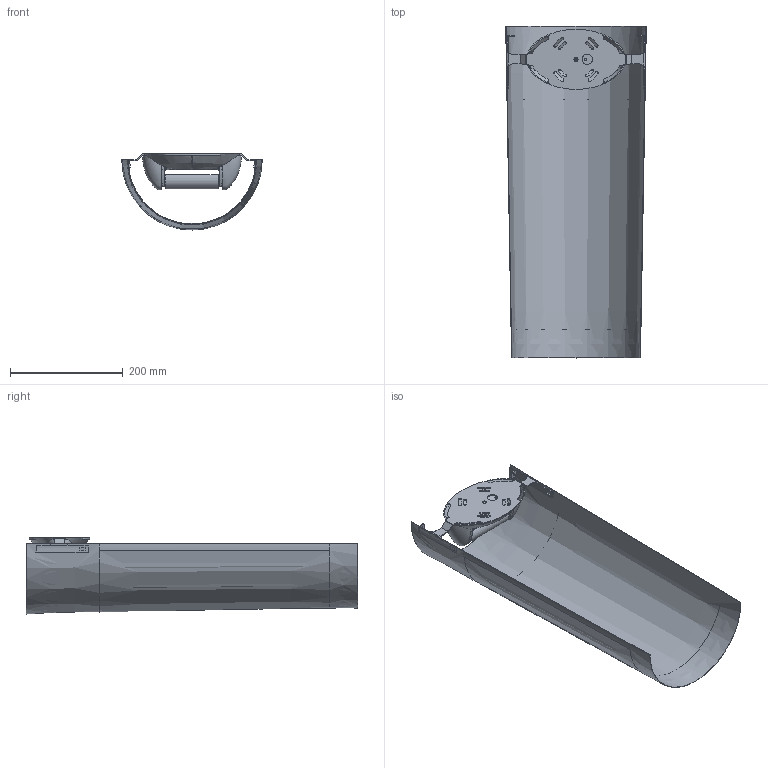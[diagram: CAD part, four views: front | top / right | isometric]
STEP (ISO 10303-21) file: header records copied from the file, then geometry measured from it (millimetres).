
FILE_DESCRIPTION (( 'STEP AP214' ), '1' );
FILE_NAME ('182_GRANDE_W_PL_3D.STEP', '2021-05-05T15:06:17', ( '' ), ( '' ), 'SwSTEP 2.0', 'SolidWorks 2021', '' );
FILE_SCHEMA (( 'AUTOMOTIVE_DESIGN' ));
Length unit declared in the file: millimetre
Products named in the file (1): 182_GRANDE_W_PL_3D
Bounding box: 250 x 590 x 135.28 mm (x, y, z)
Volume: 187450.2 mm3; surface area: 541838.1 mm2
Topology: 3 solids, 4 shells, 339 faces, 926 edges, 588 vertices
Faces by surface type: cylinder 142, plane 120, bspline 57, torus 14, cone 6
Entity records: 65867 total; most frequent: CARTESIAN_POINT 53937, ORIENTED_EDGE 1848, DIRECTION 1492, EDGE_CURVE 924, VERTEX_POINT 588, AXIS2_PLACEMENT_3D 549, VECTOR 394, LINE 394
